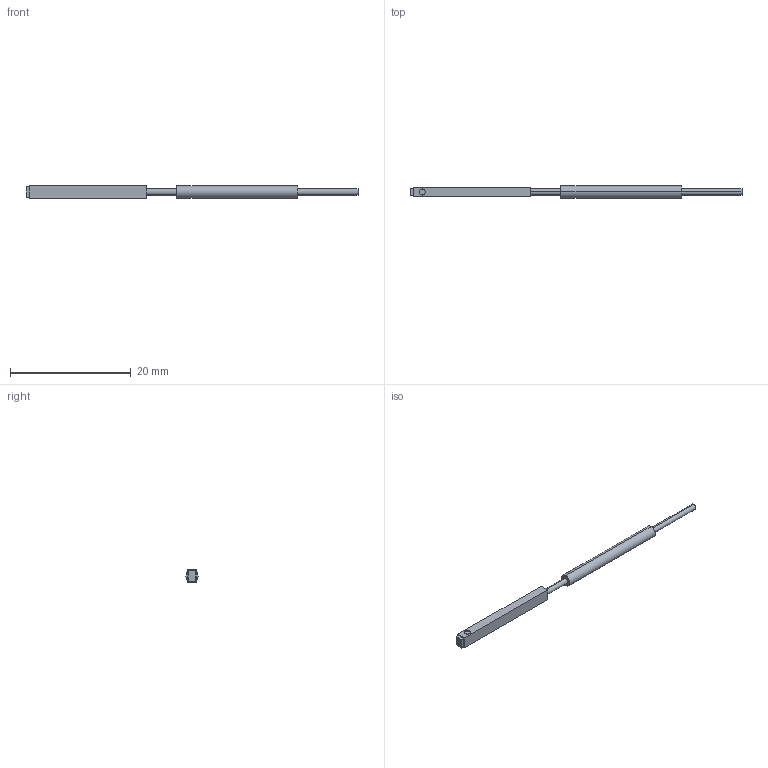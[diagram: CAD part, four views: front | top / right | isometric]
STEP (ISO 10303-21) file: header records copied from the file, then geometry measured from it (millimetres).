
FILE_DESCRIPTION (( 'STEP AP203' ), '1' );
FILE_NAME ('FT-KV1.STEP', '2005-09-08T01:58:45', ( '' ), ( '' ), 'SwSTEP 2.0', 'SolidWorks 2004073', '' );
FILE_SCHEMA (( 'CONFIG_CONTROL_DESIGN' ));
Length unit declared in the file: millimetre
Products named in the file (1): FT-KV1
Bounding box: 55 x 2 x 2 mm (x, y, z)
Volume: 134.1 mm3; surface area: 323.3 mm2
Topology: 1 solids, 1 shells, 23 faces, 48 edges, 32 vertices
Faces by surface type: plane 15, cylinder 8
Entity records: 695 total; most frequent: DIRECTION 112, CARTESIAN_POINT 104, ORIENTED_EDGE 96, EDGE_CURVE 48, AXIS2_PLACEMENT_3D 40, VERTEX_POINT 32, VECTOR 32, LINE 32
